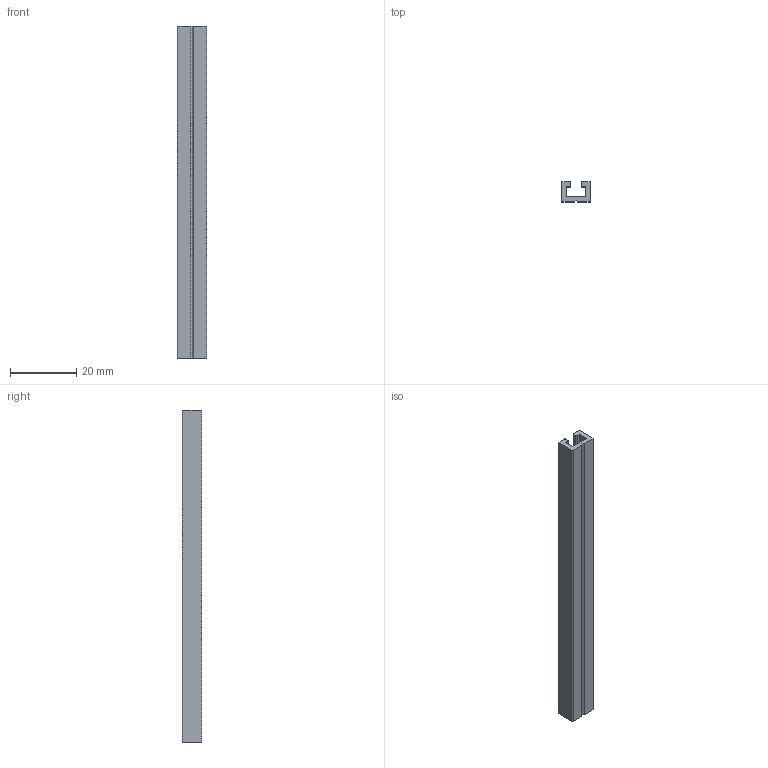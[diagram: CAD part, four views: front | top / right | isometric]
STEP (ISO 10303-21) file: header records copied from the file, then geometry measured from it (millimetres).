
FILE_DESCRIPTION (( 'STEP AP203' ), '1' );
FILE_NAME ('WSSNA03.STEP', '2024-02-19T12:13:04', ( '' ), ( '' ), 'SwSTEP 2.0', 'SolidWorks 2022', '' );
FILE_SCHEMA (( 'CONFIG_CONTROL_DESIGN' ));
Length unit declared in the file: millimetre
Products named in the file (1): WSSNA03
Bounding box: 9 x 6 x 100 mm (x, y, z)
Volume: 3054.3 mm3; surface area: 4436.7 mm2
Topology: 1 solids, 1 shells, 25 faces, 69 edges, 46 vertices
Faces by surface type: plane 17, cylinder 8
Entity records: 876 total; most frequent: CARTESIAN_POINT 141, ORIENTED_EDGE 138, DIRECTION 137, EDGE_CURVE 69, VECTOR 53, LINE 53, VERTEX_POINT 46, AXIS2_PLACEMENT_3D 42
